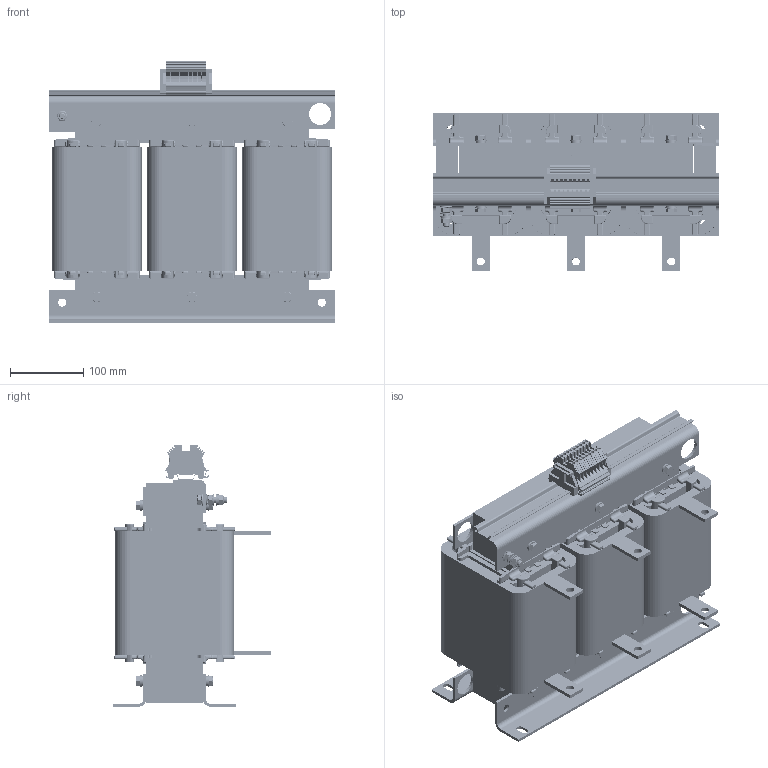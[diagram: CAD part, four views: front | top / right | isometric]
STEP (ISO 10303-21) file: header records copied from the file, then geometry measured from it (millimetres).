
FILE_DESCRIPTION((''),'2;1');
FILE_NAME('C:\Users\fp1\CAD-Daten\DT\DT10,0 400 42.stp','2014-07-01T09:42:21',('FP1'),(''),'Autodesk Inventor 2013','Autodesk Inventor 2013','');
FILE_SCHEMA(('AUTOMOTIVE_DESIGN { 1 0 10303 214 1 1 1 1 }'));
Length unit declared in the file: millimetre
Products named in the file (1): Bauteil98
Bounding box: 390 x 215.55 x 357 mm (x, y, z)
Volume: 12773603 mm3; surface area: 1513608.3 mm2
Topology: 4 solids, 4 shells, 8429 faces, 23869 edges, 15332 vertices
Faces by surface type: plane 6181, cylinder 1645, bspline 188, torus 170, sphere 168, cone 77
Full cylindrical faces by diameter (mm): 2.95 x72, 4.725 x18, 8 x3, 8.3 x2, 8.4 x2, 11 x9, 11.63 x7, 14 x12, 16 x14, 30 x4
Entity records: 273364 total; most frequent: CARTESIAN_POINT 57849, ORIENTED_EDGE 46704, DIRECTION 41887, EDGE_CURVE 23352, VECTOR 17013, LINE 17013, VERTEX_POINT 15149, AXIS2_PLACEMENT_3D 12437
